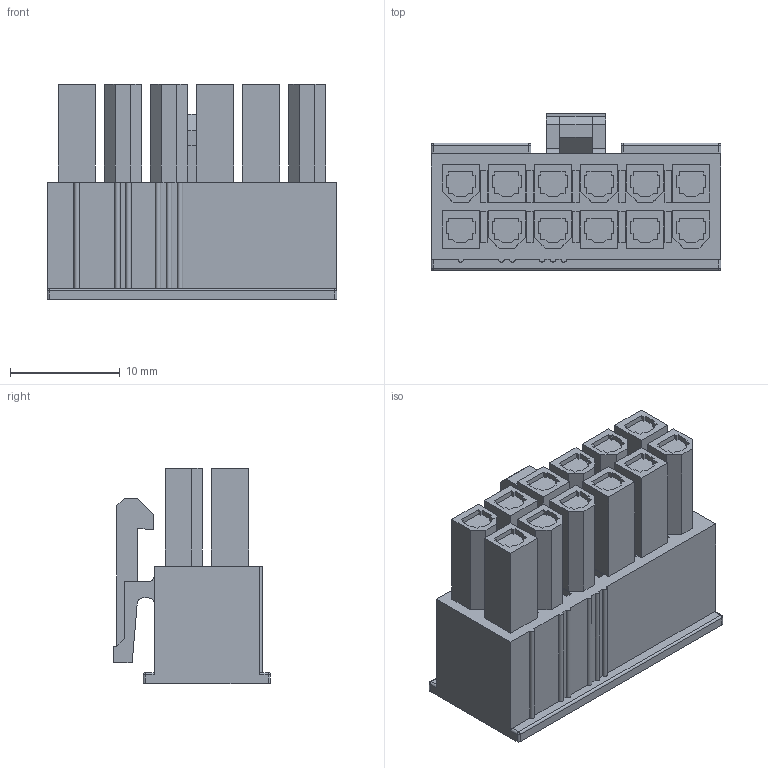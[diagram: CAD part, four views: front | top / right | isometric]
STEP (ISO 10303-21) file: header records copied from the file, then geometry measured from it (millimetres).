
FILE_DESCRIPTION((''),'2;1');
FILE_NAME('S-57956-012HXXX-XXX','2018-02-03T',('d33379'),(''),'CREO PARAMETRIC BY PTC INC, 2014500','CREO PARAMETRIC BY PTC INC, 2014500','');
FILE_SCHEMA(('CONFIG_CONTROL_DESIGN'));
Length unit declared in the file: millimetre
Products named in the file (1): S-57956-012HXXX-XXX
Bounding box: 26.4 x 14.3 x 19.6 mm (x, y, z)
Volume: 3930 mm3; surface area: 3227.9 mm2
Topology: 1 solids, 1 shells, 628 faces, 1700 edges, 1122 vertices
Faces by surface type: plane 595, cylinder 27, sphere 6
Entity records: 19338 total; most frequent: CARTESIAN_POINT 3444, ORIENTED_EDGE 3388, DIRECTION 3004, EDGE_CURVE 1694, VECTOR 1640, LINE 1640, VERTEX_POINT 1122, EDGE_LOOP 684
